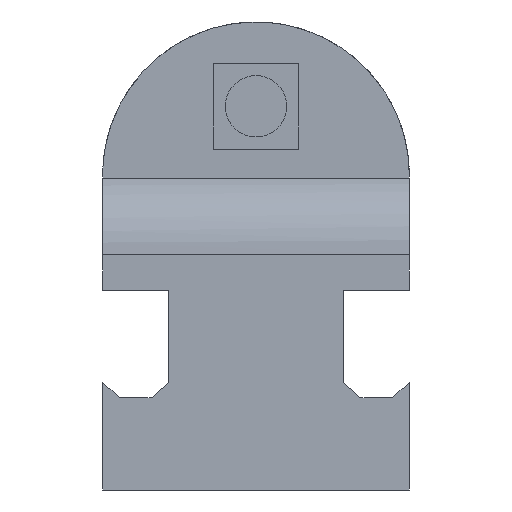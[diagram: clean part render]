
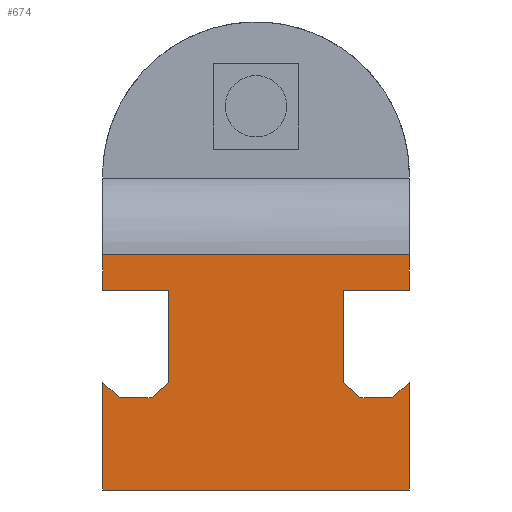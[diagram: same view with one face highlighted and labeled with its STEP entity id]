
A CAD part, left-side view. The second image highlights one B-rep face of the part: STEP entity #674.
In plain terms, the highlighted planar face has unit normal (-1, 0, 0).
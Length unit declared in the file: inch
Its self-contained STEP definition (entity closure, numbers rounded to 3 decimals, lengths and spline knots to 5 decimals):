
#342=EDGE_CURVE('',#924,#935,#936,.T.);
#358=EDGE_CURVE('',#935,#964,#965,.T.);
#382=EDGE_CURVE('',#1004,#1005,#1006,.T.);
#446=EDGE_CURVE('',#1089,#1105,#1106,.T.);
#456=EDGE_CURVE('',#1122,#1083,#1123,.T.);
#536=EDGE_CURVE('',#1033,#947,#1250,.T.);
#572=EDGE_CURVE('',#1113,#1299,#1300,.T.);
#606=EDGE_CURVE('',#1299,#924,#1347,.T.);
#624=EDGE_CURVE('',#1105,#1113,#1370,.T.);
#674=ADVANCED_FACE('',(#1431),#1432,.T.);
#684=EDGE_CURVE('',#1083,#1211,#1445,.T.);
#742=EDGE_CURVE('',#947,#958,#1516,.T.);
#790=EDGE_CURVE('',#1211,#1575,#1576,.T.);
#818=EDGE_CURVE('',#1033,#964,#1610,.T.);
#826=EDGE_CURVE('',#958,#1004,#1618,.T.);
#848=EDGE_CURVE('',#1005,#1122,#1643,.T.);
#878=EDGE_CURVE('',#1575,#1089,#1676,.T.);
#924=VERTEX_POINT('',#1724);
#935=VERTEX_POINT('',#1743);
#936=LINE('',#1744,#1745);
#947=VERTEX_POINT('',#1761);
#958=VERTEX_POINT('',#1776);
#964=VERTEX_POINT('',#1784);
#965=LINE('',#1785,#1786);
#1004=VERTEX_POINT('',#1852);
#1005=VERTEX_POINT('',#1853);
#1006=LINE('',#1854,#1855);
#1033=VERTEX_POINT('',#1898);
#1083=VERTEX_POINT('',#1969);
#1089=VERTEX_POINT('',#1977);
#1105=VERTEX_POINT('',#1997);
#1106=LINE('',#1998,#1999);
#1113=VERTEX_POINT('',#2009);
#1122=VERTEX_POINT('',#2022);
#1123=LINE('',#2023,#2024);
#1211=VERTEX_POINT('',#2164);
#1250=LINE('',#2230,#2231);
#1299=VERTEX_POINT('',#2320);
#1300=LINE('',#2321,#2322);
#1347=LINE('',#2409,#2410);
#1370=LINE('',#2459,#2460);
#1431=FACE_OUTER_BOUND('',#2570,.T.);
#1432=PLANE('',#2571);
#1445=LINE('',#2591,#2592);
#1516=LINE('',#2718,#2719);
#1575=VERTEX_POINT('',#2827);
#1576=LINE('',#2828,#2829);
#1610=LINE('',#2884,#2885);
#1618=LINE('',#2900,#2901);
#1643=LINE('',#2957,#2958);
#1676=LINE('',#3021,#3022);
#1724=CARTESIAN_POINT('',(0.0,0.26995,0.81243));
#1743=CARTESIAN_POINT('',(0.0,0.,0.81243));
#1744=CARTESIAN_POINT('',(0.0,0.69243,0.81243));
#1745=VECTOR('',#3074,1.0);
#1761=CARTESIAN_POINT('',(0.0,1.2498,0.81243));
#1776=CARTESIAN_POINT('',(0.0,0.97985,0.81243));
#1784=CARTESIAN_POINT('',(0.0,0.,0.95896));
#1785=CARTESIAN_POINT('',(0.0,0.,0.76319));
#1786=VECTOR('',#3096,1.0);
#1852=CARTESIAN_POINT('',(0.0,0.97985,0.4375));
#1853=CARTESIAN_POINT('',(0.0,1.05234,0.37501));
#1854=CARTESIAN_POINT('',(0.0,1.06506,0.36405));
#1855=VECTOR('',#3117,1.0);
#1898=CARTESIAN_POINT('',(0.0,1.2498,0.95896));
#1969=CARTESIAN_POINT('',(0.0,1.2498,0.4375));
#1977=CARTESIAN_POINT('',(0.0,0.,0.4375));
#1997=CARTESIAN_POINT('',(0.0,0.0725,0.37501));
#1998=CARTESIAN_POINT('',(0.0,0.36631,0.12177));
#1999=VECTOR('',#3280,1.0);
#2009=CARTESIAN_POINT('',(0.0,0.19746,0.37501));
#2022=CARTESIAN_POINT('',(0.0,1.1773,0.37501));
#2023=CARTESIAN_POINT('',(0.0,1.24208,0.43085));
#2024=VECTOR('',#3292,1.0);
#2164=CARTESIAN_POINT('',(0.0,1.2498,0.));
#2230=CARTESIAN_POINT('',(0.0,1.2498,0.76319));
#2231=VECTOR('',#3424,1.0);
#2320=CARTESIAN_POINT('',(0.0,0.26995,0.4375));
#2321=CARTESIAN_POINT('',(0.0,0.54333,0.67313));
#2322=VECTOR('',#3469,1.0);
#2409=CARTESIAN_POINT('',(0.0,0.26995,0.55222));
#2410=VECTOR('',#3495,1.0);
#2459=CARTESIAN_POINT('',(0.0,0.69243,0.37501));
#2460=VECTOR('',#3512,1.0);
#2570=EDGE_LOOP('',(#3579,#3580,#3581,#3582,#3583,#3584,#3585,#3586,#3587,#3588,#3589,#3590,#3591,#3592,#3593,#3594));
#2571=AXIS2_PLACEMENT_3D('',#3595,#3596,#3597);
#2591=CARTESIAN_POINT('',(0.0,1.2498,0.33524));
#2592=VECTOR('',#3619,1.0);
#2718=CARTESIAN_POINT('',(0.0,1.18236,0.81243));
#2719=VECTOR('',#3734,1.0);
#2827=CARTESIAN_POINT('',(0.0,0.,0.));
#2828=CARTESIAN_POINT('',(0.0,1.24989,0.));
#2829=VECTOR('',#3820,1.0);
#2884=CARTESIAN_POINT('',(0.0,1.24989,0.95896));
#2885=VECTOR('',#3861,1.0);
#2900=CARTESIAN_POINT('',(0.0,0.97985,0.55222));
#2901=VECTOR('',#3865,1.0);
#2957=CARTESIAN_POINT('',(0.0,1.18236,0.37501));
#2958=VECTOR('',#3884,1.0);
#3021=CARTESIAN_POINT('',(0.0,0.,0.33524));
#3022=VECTOR('',#3917,1.0);
#3074=DIRECTION('',(0.0,-1.0,0.0));
#3096=DIRECTION('',(0.0,0.0,1.0));
#3117=DIRECTION('',(-0.0,0.757,-0.653));
#3280=DIRECTION('',(-0.0,0.757,-0.653));
#3292=DIRECTION('',(0.0,0.757,0.653));
#3424=DIRECTION('',(0.0,-0.0,-1.0));
#3469=DIRECTION('',(0.0,0.757,0.653));
#3495=DIRECTION('',(0.0,0.0,1.0));
#3512=DIRECTION('',(-0.0,1.0,-0.0));
#3579=ORIENTED_EDGE('',*,*,#878,.T.);
#3580=ORIENTED_EDGE('',*,*,#446,.T.);
#3581=ORIENTED_EDGE('',*,*,#624,.T.);
#3582=ORIENTED_EDGE('',*,*,#572,.T.);
#3583=ORIENTED_EDGE('',*,*,#606,.T.);
#3584=ORIENTED_EDGE('',*,*,#342,.T.);
#3585=ORIENTED_EDGE('',*,*,#358,.T.);
#3586=ORIENTED_EDGE('',*,*,#818,.F.);
#3587=ORIENTED_EDGE('',*,*,#536,.T.);
#3588=ORIENTED_EDGE('',*,*,#742,.T.);
#3589=ORIENTED_EDGE('',*,*,#826,.T.);
#3590=ORIENTED_EDGE('',*,*,#382,.T.);
#3591=ORIENTED_EDGE('',*,*,#848,.T.);
#3592=ORIENTED_EDGE('',*,*,#456,.T.);
#3593=ORIENTED_EDGE('',*,*,#684,.T.);
#3594=ORIENTED_EDGE('',*,*,#790,.T.);
#3595=CARTESIAN_POINT('',(0.0,1.24989,0.47948));
#3596=DIRECTION('',(-1.0,0.0,0.0));
#3597=DIRECTION('',(0.0,0.0,-1.0));
#3619=DIRECTION('',(0.0,-0.0,-1.0));
#3734=DIRECTION('',(0.0,-1.0,0.0));
#3820=DIRECTION('',(0.0,-1.0,0.0));
#3861=DIRECTION('',(0.0,-1.0,0.0));
#3865=DIRECTION('',(0.0,-0.0,-1.0));
#3884=DIRECTION('',(-0.0,1.0,-0.0));
#3917=DIRECTION('',(0.0,0.0,1.0));
